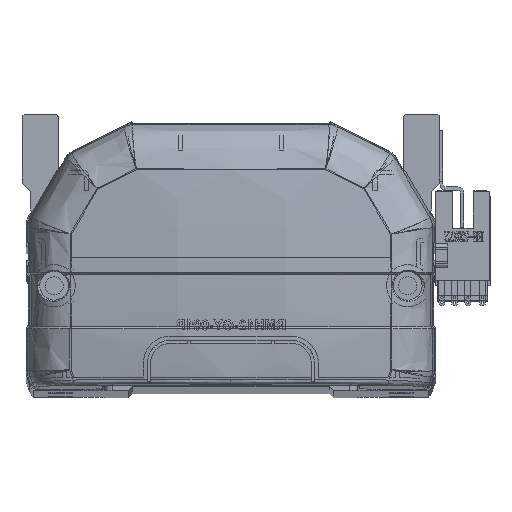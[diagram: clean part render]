
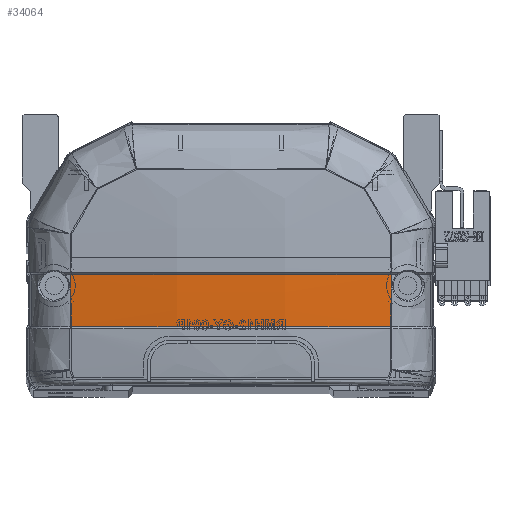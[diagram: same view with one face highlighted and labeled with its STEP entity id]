
A CAD part, top view. The second image highlights one B-rep face of the part: STEP entity #34064.
In plain terms, the highlighted free-form (B-spline) face has degree [3, 3] with [4, 4] control points.
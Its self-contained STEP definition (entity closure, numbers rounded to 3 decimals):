
#1531 = CARTESIAN_POINT ( 'NONE',  ( -13.373, 28.707, -9.468 ) ) ;
#4520 = EDGE_CURVE ( 'NONE', #7553, #43616, #31497, .T. ) ;
#6205 = ORIENTED_EDGE ( 'NONE', *, *, #15915, .F. ) ;
#7472 = CARTESIAN_POINT ( 'NONE',  ( -13.598, 24.342, -10.47 ) ) ;
#7553 = VERTEX_POINT ( 'NONE', #43920 ) ;
#7628 = EDGE_CURVE ( 'NONE', #30422, #43616, #45105, .T. ) ;
#7814 = CARTESIAN_POINT ( 'NONE',  ( 13.598, 28.769, -10.535 ) ) ;
#9229 = ORIENTED_EDGE ( 'NONE', *, *, #7628, .F. ) ;
#9638 = ORIENTED_EDGE ( 'NONE', *, *, #28415, .T. ) ;
#10791 =( BOUNDED_SURFACE ( )  B_SPLINE_SURFACE ( 3, 3, ( 
 ( #45723, #46227, #34910, #18761 ),
 ( #45884, #22949, #30577, #7814 ),
 ( #23284, #34418, #7472, #30410 ),
 ( #22783, #15570, #34749, #46387 ) ),
 .UNSPECIFIED., .F., .F., .F. ) 
 B_SPLINE_SURFACE_WITH_KNOTS ( ( 4, 4 ),
 ( 4, 4 ),
 ( 0., 1. ),
 ( 0., 1. ),
 .UNSPECIFIED. ) 
 GEOMETRIC_REPRESENTATION_ITEM ( )  RATIONAL_B_SPLINE_SURFACE ( (
 ( 1., 1., 1., 1.),
 ( 0.992, 0.992, 0.992, 0.992),
 ( 0.992, 0.992, 0.992, 0.992),
 ( 1., 1., 1., 1.) ) ) 
 REPRESENTATION_ITEM ( '' )  SURFACE ( )  );
#12824 = CARTESIAN_POINT ( 'NONE',  ( -13.384, 15.83, -8.724 ) ) ;
#13139 = CARTESIAN_POINT ( 'NONE',  ( -26.721, 15.83, -7.624 ) ) ;
#13669 = CARTESIAN_POINT ( 'NONE',  ( 39.963, 28.706, -6.372 ) ) ;
#14184 = CARTESIAN_POINT ( 'NONE',  ( 39.973, 20.12, -6.142 ) ) ;
#15570 = CARTESIAN_POINT ( 'NONE',  ( -40.461, 20.111, -6.066 ) ) ;
#15915 = EDGE_CURVE ( 'NONE', #7553, #31933, #29523, .T. ) ;
#16237 = FACE_OUTER_BOUND ( 'NONE', #19335, .T. ) ;
#16481 = B_SPLINE_CURVE_WITH_KNOTS ( 'NONE', 3,
 ( #40921, #14184, #25406, #13669 ),
 .UNSPECIFIED., .F., .F.,
 ( 4, 4 ),
 ( 0., 1. ),
 .UNSPECIFIED. ) ;
#16975 = CARTESIAN_POINT ( 'NONE',  ( 39.985, 15.83, -5.879 ) ) ;
#17167 = CARTESIAN_POINT ( 'NONE',  ( 13.375, 28.707, -9.468 ) ) ;
#18237 = CARTESIAN_POINT ( 'NONE',  ( -39.973, 20.118, -6.142 ) ) ;
#18761 = CARTESIAN_POINT ( 'NONE',  ( 40.461, 28.832, -6.296 ) ) ;
#19335 = EDGE_LOOP ( 'NONE', ( #9638, #6205, #35188, #9229 ) ) ;
#22783 = CARTESIAN_POINT ( 'NONE',  ( -40.461, 15.757, -5.8 ) ) ;
#22949 = CARTESIAN_POINT ( 'NONE',  ( 13.598, 19.918, -10.302 ) ) ;
#23284 = CARTESIAN_POINT ( 'NONE',  ( -13.598, 15.499, -10.032 ) ) ;
#24219 = CARTESIAN_POINT ( 'NONE',  ( 39.985, 15.83, -5.879 ) ) ;
#24864 = CARTESIAN_POINT ( 'NONE',  ( -39.985, 15.83, -5.879 ) ) ;
#25406 = CARTESIAN_POINT ( 'NONE',  ( 39.966, 24.413, -6.306 ) ) ;
#28263 = CARTESIAN_POINT ( 'NONE',  ( 13.38, 15.83, -8.984 ) ) ;
#28415 = EDGE_CURVE ( 'NONE', #30422, #31933, #16481, .T. ) ;
#28601 = CARTESIAN_POINT ( 'NONE',  ( 26.761, 15.83, -7.945 ) ) ;
#28625 = CARTESIAN_POINT ( 'NONE',  ( -39.963, 28.706, -6.372 ) ) ;
#29523 = B_SPLINE_CURVE_WITH_KNOTS ( 'NONE', 3,
 ( #28625, #40223, #1531, #17167, #44116, #32003 ),
 .UNSPECIFIED., .F., .F.,
 ( 4, 2, 4 ),
 ( 0., 0.5, 1. ),
 .UNSPECIFIED. ) ;
#30410 = CARTESIAN_POINT ( 'NONE',  ( -13.598, 28.769, -10.535 ) ) ;
#30422 = VERTEX_POINT ( 'NONE', #24219 ) ;
#30577 = CARTESIAN_POINT ( 'NONE',  ( 13.598, 24.342, -10.47 ) ) ;
#31497 = B_SPLINE_CURVE_WITH_KNOTS ( 'NONE', 3,
 ( #33736, #41330, #18237, #33227 ),
 .UNSPECIFIED., .F., .F.,
 ( 4, 4 ),
 ( 0., 1. ),
 .UNSPECIFIED. ) ;
#31933 = VERTEX_POINT ( 'NONE', #49658 ) ;
#32003 = CARTESIAN_POINT ( 'NONE',  ( 39.963, 28.706, -6.372 ) ) ;
#32452 = CARTESIAN_POINT ( 'NONE',  ( -6.692, 15.83, -8.984 ) ) ;
#33227 = CARTESIAN_POINT ( 'NONE',  ( -39.985, 15.83, -5.879 ) ) ;
#33736 = CARTESIAN_POINT ( 'NONE',  ( -39.963, 28.706, -6.372 ) ) ;
#34064 = ADVANCED_FACE ( 'NONE', ( #16237 ), #10791, .F. ) ;
#34418 = CARTESIAN_POINT ( 'NONE',  ( -13.598, 19.918, -10.302 ) ) ;
#34749 = CARTESIAN_POINT ( 'NONE',  ( -40.461, 24.47, -6.231 ) ) ;
#34910 = CARTESIAN_POINT ( 'NONE',  ( 40.461, 24.47, -6.231 ) ) ;
#35188 = ORIENTED_EDGE ( 'NONE', *, *, #4520, .T. ) ;
#39726 = CARTESIAN_POINT ( 'NONE',  ( -23.389, 15.83, -7.947 ) ) ;
#40223 = CARTESIAN_POINT ( 'NONE',  ( -26.748, 28.706, -8.432 ) ) ;
#40921 = CARTESIAN_POINT ( 'NONE',  ( 39.985, 15.83, -5.879 ) ) ;
#41330 = CARTESIAN_POINT ( 'NONE',  ( -39.966, 24.412, -6.306 ) ) ;
#41467 = CARTESIAN_POINT ( 'NONE',  ( -39.985, 15.83, -5.879 ) ) ;
#43604 = CARTESIAN_POINT ( 'NONE',  ( -36.679, 15.83, -6.395 ) ) ;
#43616 = VERTEX_POINT ( 'NONE', #41467 ) ;
#43920 = CARTESIAN_POINT ( 'NONE',  ( -39.963, 28.706, -6.372 ) ) ;
#44116 = CARTESIAN_POINT ( 'NONE',  ( 26.749, 28.706, -8.432 ) ) ;
#45105 = B_SPLINE_CURVE_WITH_KNOTS ( 'NONE', 3,
 ( #16975, #28601, #28263, #32452, #12824, #39726, #13139, #47960, #43604, #24864 ),
 .UNSPECIFIED., .F., .F.,
 ( 4, 2, 2, 2, 4 ),
 ( 0., 0.04, 0.06, 0.07, 0.08 ),
 .UNSPECIFIED. ) ;
#45723 = CARTESIAN_POINT ( 'NONE',  ( 40.461, 15.757, -5.8 ) ) ;
#45884 = CARTESIAN_POINT ( 'NONE',  ( 13.598, 15.499, -10.032 ) ) ;
#46227 = CARTESIAN_POINT ( 'NONE',  ( 40.461, 20.111, -6.066 ) ) ;
#46387 = CARTESIAN_POINT ( 'NONE',  ( -40.461, 28.832, -6.296 ) ) ;
#47960 = CARTESIAN_POINT ( 'NONE',  ( -33.365, 15.83, -6.848 ) ) ;
#49658 = CARTESIAN_POINT ( 'NONE',  ( 39.963, 28.706, -6.372 ) ) ;
